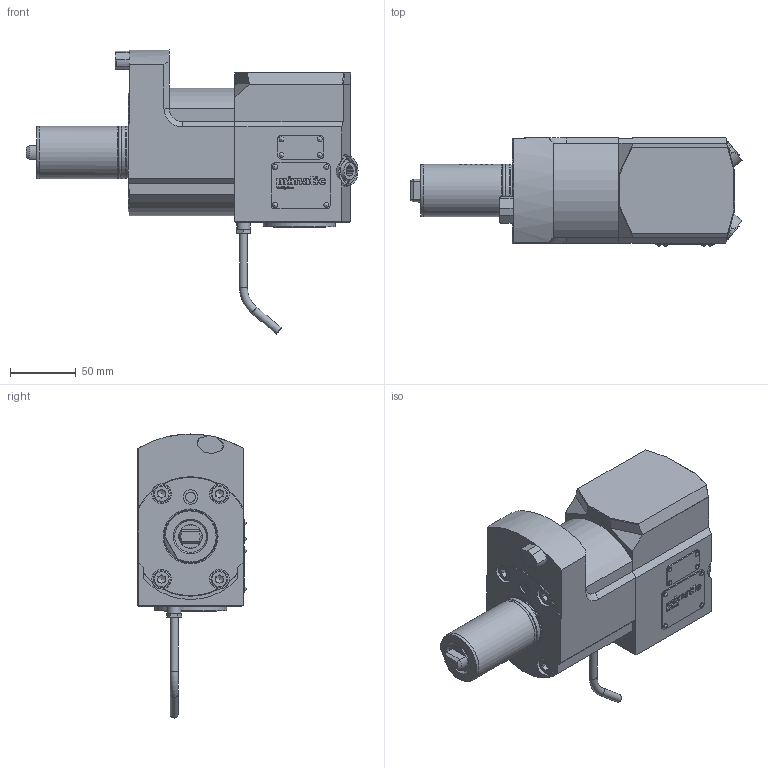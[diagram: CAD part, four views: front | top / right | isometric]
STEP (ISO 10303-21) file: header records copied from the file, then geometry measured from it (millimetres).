
FILE_DESCRIPTION(/* description */ (''),/* implementation_level */ '2;1');
FILE_NAME(/* name */ '197483',/* time_stamp */ '2020-10-02T08:54:26+02:00',/* author */ (''),/* organization */ (''),/* preprocessor_version */ 'ST-DEVELOPER v16.5',/* originating_system */ 'HiCAD 2017 2201.0 Build 268',/* authorisation */ '');
FILE_SCHEMA (('AUTOMOTIVE_DESIGN { 1 0 10303 214 1 1 1 1 }'));
Products named in the file (69): Root; Leeres Teil; AGW_10; ROTATIONSTEIL_1_120*; DIN 13-M50x1; 001_000X_130*; DIN 13-M20x1; 185813_Zylinderkopfschraube M8x85_400; GEWINDE; 173501_Kantsealring 7.65x1.68_351; 113942_O-Ring 36x2_330; 00094252_140; Leeres Teil_20*; ROTATIONSTEIL_0_150*; 195565_Spannsatz Berg C4 rot._350*; 777.18468.002.1.1; 765.18468.001.0.01; 19115_SB26; 763.18468.001.1; KLEMMUNG; 00093735_130*; 00092920_120*; 003_000X_210*; 002_000X_100*; BG_M10; 112485_Überwurfschraube_353*; 112384_Doppelkegelring D6_352*; TORUS_1_240*; 113692_Kerbnagel 2x4_380*; QUADER_0_370*; 00011769_372*
Assembly tree (68 placements, depth 8):
  Root
    Leeres Teil
      AGW_10
        Leeres Teil
          Leeres Teil
            ROTATIONSTEIL_1_120*
              DIN 13-M50x1
              001_000X_130*
                DIN 13-M20x1
          Leeres Teil
            185813_Zylinderkopfschraube M8x85_400
              GEWINDE
            185813_Zylinderkopfschraube M8x85_400
              GEWINDE
            185813_Zylinderkopfschraube M8x85_400
              GEWINDE
            185813_Zylinderkopfschraube M8x85_400
              GEWINDE
            173501_Kantsealring 7.65x1.68_351
            113942_O-Ring 36x2_330
          Leeres Teil
            00094252_140
      Leeres Teil_20*
        Leeres Teil
          Leeres Teil
            ROTATIONSTEIL_0_150*
          195565_Spannsatz Berg C4 rot._350*
            777.18468.002.1.1
            765.18468.001.0.01
            777.18468.002.1.1
            765.18468.001.0.01
            19115_SB26
            765.18468.001.0.01
            765.18468.001.0.01
            765.18468.001.0.01
            765.18468.001.0.01
            763.18468.001.1
            Leeres Teil
          KLEMMUNG
            00093735_130*
            00092920_120*
          KLEMMUNG
            00093735_130*
            00092920_120*
        Leeres Teil
          Leeres Teil
            003_000X_210*
            002_000X_100*
          Leeres Teil
            Leeres Teil
            Leeres Teil
            Leeres Teil
            BG_M10
              112485_Überwurfschraube_353*
                (unnamed)
              112384_Doppelkegelring D6_352*
              TORUS_1_240*
        Leeres Teil
          113692_Kerbnagel 2x4_380*
          113692_Kerbnagel 2x4_380*
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Bounding box: 252.69 x 82.35 x 216.17 mm (x, y, z)
Volume: 1453434.5 mm3; surface area: 169880.5 mm2
Topology: 39 solids, 39 shells, 1037 faces, 2663 edges, 1741 vertices
Faces by surface type: plane 588, cylinder 199, cone 103, torus 99, bspline 40, sphere 8
Full cylindrical faces by diameter (mm): 2 x8, 2.2 x8, 4 x2, 6 x3, 7.65 x1, 8.1 x2, 8.773 x2, 10 x1, 11.01 x1, 11.1 x1, 13 x4, 15 x6, 17.8 x2, 18 x3, 22.5 x2, 24 x1, 25 x2, 25.2 x1, 26.8 x1, 36.5 x1, 39.6 x1, 40 x3, 55 x2
Entity records: 71795 total; most frequent: CARTESIAN_POINT 20697, DIRECTION 5498, PRESENTATION_STYLE_ASSIGNMENT 5073, ORIENTED_EDGE 5042, COLOUR_RGB 5040, DRAUGHTING_PRE_DEFINED_CURVE_FONT 5034, CURVE_STYLE 5034, OVER_RIDING_STYLED_ITEM 5034
